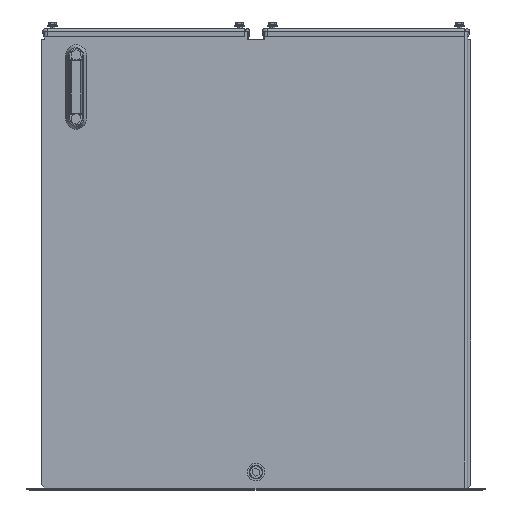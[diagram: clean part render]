
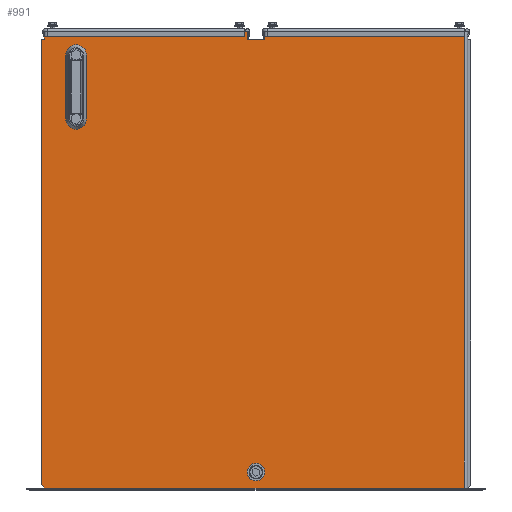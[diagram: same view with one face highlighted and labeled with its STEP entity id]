
A CAD part, top view. The second image highlights one B-rep face of the part: STEP entity #991.
In plain terms, the highlighted planar face has unit normal (0, 0, 1).
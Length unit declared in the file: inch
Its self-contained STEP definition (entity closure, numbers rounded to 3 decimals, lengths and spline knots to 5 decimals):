
#67 = EDGE_CURVE ( 'NONE', #7142, #2241, #16184, .T. ) ;
#200 = VERTEX_POINT ( 'NONE', #12825 ) ;
#227 = LINE ( 'NONE', #1063, #17797 ) ;
#235 = LINE ( 'NONE', #8303, #17291 ) ;
#292 = CIRCLE ( 'NONE', #4975, 0.26563 ) ;
#440 = VERTEX_POINT ( 'NONE', #16304 ) ;
#481 = ORIENTED_EDGE ( 'NONE', *, *, #12018, .F. ) ;
#487 = CARTESIAN_POINT ( 'NONE',  ( -7.64028, 45.10786, 37.27612 ) ) ;
#514 = CARTESIAN_POINT ( 'NONE',  ( 6.98472, 12.35786, 37.27612 ) ) ;
#672 = DIRECTION ( 'NONE',  ( 0., 0., 1. ) ) ;
#844 = CARTESIAN_POINT ( 'NONE',  ( 5.79722, 46.29536, 37.27612 ) ) ;
#991 = ADVANCED_FACE ( 'NONE', ( #19501, #11209, #2944, #15127 ), #2450, .F. ) ;
#1059 = VECTOR ( 'NONE', #21242, 39.37008 ) ;
#1063 = CARTESIAN_POINT ( 'NONE',  ( 5.79722, 46.98286, 37.27612 ) ) ;
#1687 = CIRCLE ( 'NONE', #5951, 0.26563 ) ;
#1741 = DIRECTION ( 'NONE',  ( 0., 1., 0. ) ) ;
#1837 = DIRECTION ( 'NONE',  ( 0., 0., 1. ) ) ;
#2117 = DIRECTION ( 'NONE',  ( -1., 0., 0. ) ) ;
#2138 = DIRECTION ( 'NONE',  ( 1., 0., 0. ) ) ;
#2241 = VERTEX_POINT ( 'NONE', #13365 ) ;
#2375 = AXIS2_PLACEMENT_3D ( 'NONE', #487, #12042, #2138 ) ;
#2423 = AXIS2_PLACEMENT_3D ( 'NONE', #3448, #15034, #5109 ) ;
#2450 = PLANE ( 'NONE',  #10685 ) ;
#2593 = ORIENTED_EDGE ( 'NONE', *, *, #12218, .F. ) ;
#2634 = CARTESIAN_POINT ( 'NONE',  ( -10.39028, 11.10786, 37.27612 ) ) ;
#2944 = FACE_BOUND ( 'NONE', #12358, .T. ) ;
#3085 = CARTESIAN_POINT ( 'NONE',  ( -10.39028, 46.35786, 37.27612 ) ) ;
#3448 = CARTESIAN_POINT ( 'NONE',  ( 6.48472, 12.35786, 37.27612 ) ) ;
#3461 = ORIENTED_EDGE ( 'NONE', *, *, #67, .F. ) ;
#3472 = ORIENTED_EDGE ( 'NONE', *, *, #4393, .F. ) ;
#3783 = CARTESIAN_POINT ( 'NONE',  ( -10.39028, 46.98286, 37.27612 ) ) ;
#3896 = CARTESIAN_POINT ( 'NONE',  ( 7.17222, 46.29536, 37.27612 ) ) ;
#3905 = CARTESIAN_POINT ( 'NONE',  ( -10.14028, 46.98286, 37.27612 ) ) ;
#4115 = VECTOR ( 'NONE', #7492, 39.37008 ) ;
#4349 = CIRCLE ( 'NONE', #21323, 0.5 ) ;
#4393 = EDGE_CURVE ( 'NONE', #12971, #6643, #19701, .T. ) ;
#4579 = CIRCLE ( 'NONE', #6328, 0.26563 ) ;
#4667 = DIRECTION ( 'NONE',  ( 1., 0., 0. ) ) ;
#4975 = AXIS2_PLACEMENT_3D ( 'NONE', #11733, #1837, #13423 ) ;
#5109 = DIRECTION ( 'NONE',  ( 1., 0., 0. ) ) ;
#5125 = DIRECTION ( 'NONE',  ( 0., 0., 1. ) ) ;
#5387 = VERTEX_POINT ( 'NONE', #17418 ) ;
#5571 = CARTESIAN_POINT ( 'NONE',  ( 22.82012, 46.98286, 37.27612 ) ) ;
#5762 = DIRECTION ( 'NONE',  ( 0., 0., -1. ) ) ;
#5895 = VERTEX_POINT ( 'NONE', #3896 ) ;
#5905 = VECTOR ( 'NONE', #5969, 39.37008 ) ;
#5951 = AXIS2_PLACEMENT_3D ( 'NONE', #10568, #672, #12244 ) ;
#5969 = DIRECTION ( 'NONE',  ( 1., 0., 0. ) ) ;
#5974 = EDGE_CURVE ( 'NONE', #200, #5895, #13438, .T. ) ;
#6088 = VERTEX_POINT ( 'NONE', #11014 ) ;
#6106 = VECTOR ( 'NONE', #2117, 39.37008 ) ;
#6328 = AXIS2_PLACEMENT_3D ( 'NONE', #19272, #9341, #20931 ) ;
#6643 = VERTEX_POINT ( 'NONE', #3905 ) ;
#6795 = EDGE_CURVE ( 'NONE', #14744, #17811, #11878, .T. ) ;
#7066 = EDGE_CURVE ( 'NONE', #9910, #10392, #13956, .T. ) ;
#7085 = CARTESIAN_POINT ( 'NONE',  ( -10.14028, 46.35786, 37.27612 ) ) ;
#7142 = VERTEX_POINT ( 'NONE', #17274 ) ;
#7150 = VERTEX_POINT ( 'NONE', #12438 ) ;
#7492 = DIRECTION ( 'NONE',  ( 1., 0., 0. ) ) ;
#8032 = EDGE_CURVE ( 'NONE', #6088, #20259, #21096, .T. ) ;
#8303 = CARTESIAN_POINT ( 'NONE',  ( 22.82012, 11.10786, 37.27612 ) ) ;
#8345 = ORIENTED_EDGE ( 'NONE', *, *, #8032, .T. ) ;
#8543 = ORIENTED_EDGE ( 'NONE', *, *, #7066, .T. ) ;
#9138 = ORIENTED_EDGE ( 'NONE', *, *, #20260, .T. ) ;
#9341 = DIRECTION ( 'NONE',  ( 0., 0., 1. ) ) ;
#9494 = ORIENTED_EDGE ( 'NONE', *, *, #9691, .T. ) ;
#9691 = EDGE_CURVE ( 'NONE', #20259, #14744, #11951, .T. ) ;
#9910 = VERTEX_POINT ( 'NONE', #5571 ) ;
#10392 = VERTEX_POINT ( 'NONE', #16945 ) ;
#10436 = ORIENTED_EDGE ( 'NONE', *, *, #17400, .F. ) ;
#10444 = ORIENTED_EDGE ( 'NONE', *, *, #14182, .F. ) ;
#10513 = LINE ( 'NONE', #3783, #6106 ) ;
#10568 = CARTESIAN_POINT ( 'NONE',  ( -7.64028, 40.10786, 37.27612 ) ) ;
#10685 = AXIS2_PLACEMENT_3D ( 'NONE', #18919, #5762, #17332 ) ;
#10803 = EDGE_LOOP ( 'NONE', ( #2593, #10444 ) ) ;
#10885 = VECTOR ( 'NONE', #18243, 39.37008 ) ;
#10942 = DIRECTION ( 'NONE',  ( 0., 1., 0. ) ) ;
#11014 = CARTESIAN_POINT ( 'NONE',  ( -10.39028, 46.35786, 37.27612 ) ) ;
#11024 = ORIENTED_EDGE ( 'NONE', *, *, #5974, .F. ) ;
#11209 = FACE_BOUND ( 'NONE', #12100, .T. ) ;
#11603 = CARTESIAN_POINT ( 'NONE',  ( -10.14028, 46.98286, 37.27612 ) ) ;
#11733 = CARTESIAN_POINT ( 'NONE',  ( -7.64028, 45.10786, 37.27612 ) ) ;
#11737 = EDGE_CURVE ( 'NONE', #19163, #200, #227, .T. ) ;
#11878 = LINE ( 'NONE', #14256, #5905 ) ;
#11881 = ORIENTED_EDGE ( 'NONE', *, *, #18954, .F. ) ;
#11951 = LINE ( 'NONE', #19609, #1059 ) ;
#12018 = EDGE_CURVE ( 'NONE', #15486, #440, #4349, .T. ) ;
#12042 = DIRECTION ( 'NONE',  ( 0., 0., 1. ) ) ;
#12100 = EDGE_LOOP ( 'NONE', ( #3461, #11881 ) ) ;
#12218 = EDGE_CURVE ( 'NONE', #7150, #5387, #4579, .T. ) ;
#12223 = CARTESIAN_POINT ( 'NONE',  ( -10.39028, 46.98286, 37.27612 ) ) ;
#12244 = DIRECTION ( 'NONE',  ( 1., 0., 0. ) ) ;
#12358 = EDGE_LOOP ( 'NONE', ( #481, #10436 ) ) ;
#12438 = CARTESIAN_POINT ( 'NONE',  ( -7.37465, 40.10786, 37.27612 ) ) ;
#12664 = DIRECTION ( 'NONE',  ( 0., -1., 0. ) ) ;
#12825 = CARTESIAN_POINT ( 'NONE',  ( 5.79722, 46.29536, 37.27612 ) ) ;
#12885 = LINE ( 'NONE', #3085, #17269 ) ;
#12971 = VERTEX_POINT ( 'NONE', #7085 ) ;
#13365 = CARTESIAN_POINT ( 'NONE',  ( -7.9059, 45.10786, 37.27612 ) ) ;
#13418 = VECTOR ( 'NONE', #20457, 39.37008 ) ;
#13423 = DIRECTION ( 'NONE',  ( 1., 0., 0. ) ) ;
#13438 = LINE ( 'NONE', #844, #4115 ) ;
#13589 = LINE ( 'NONE', #19185, #17435 ) ;
#13892 = ORIENTED_EDGE ( 'NONE', *, *, #14905, .T. ) ;
#13956 = LINE ( 'NONE', #12223, #13418 ) ;
#14093 = EDGE_LOOP ( 'NONE', ( #8345, #9494, #19617, #9138, #8543, #16488, #11024, #15339, #13892, #3472, #16034 ) ) ;
#14182 = EDGE_CURVE ( 'NONE', #5387, #7150, #1687, .T. ) ;
#14245 = DIRECTION ( 'NONE',  ( 0., -1., 0. ) ) ;
#14256 = CARTESIAN_POINT ( 'NONE',  ( -10.39028, 11.10786, 37.27612 ) ) ;
#14509 = CARTESIAN_POINT ( 'NONE',  ( 22.82012, 11.10786, 37.27612 ) ) ;
#14744 = VERTEX_POINT ( 'NONE', #14860 ) ;
#14860 = CARTESIAN_POINT ( 'NONE',  ( -10.14028, 11.10786, 37.27612 ) ) ;
#14905 = EDGE_CURVE ( 'NONE', #19163, #6643, #10513, .T. ) ;
#15034 = DIRECTION ( 'NONE',  ( 0., 0., 1. ) ) ;
#15045 = CARTESIAN_POINT ( 'NONE',  ( 6.48472, 12.35786, 37.27612 ) ) ;
#15127 = FACE_OUTER_BOUND ( 'NONE', #14093, .T. ) ;
#15339 = ORIENTED_EDGE ( 'NONE', *, *, #11737, .F. ) ;
#15486 = VERTEX_POINT ( 'NONE', #514 ) ;
#16034 = ORIENTED_EDGE ( 'NONE', *, *, #20722, .F. ) ;
#16066 = EDGE_CURVE ( 'NONE', #5895, #10392, #13589, .T. ) ;
#16184 = CIRCLE ( 'NONE', #2375, 0.26563 ) ;
#16304 = CARTESIAN_POINT ( 'NONE',  ( 5.98472, 12.35786, 37.27612 ) ) ;
#16337 = CIRCLE ( 'NONE', #2423, 0.5 ) ;
#16488 = ORIENTED_EDGE ( 'NONE', *, *, #16066, .F. ) ;
#16681 = DIRECTION ( 'NONE',  ( 1., 0., 0. ) ) ;
#16704 = VECTOR ( 'NONE', #14245, 39.37008 ) ;
#16945 = CARTESIAN_POINT ( 'NONE',  ( 7.17222, 46.98286, 37.27612 ) ) ;
#17269 = VECTOR ( 'NONE', #4667, 39.37008 ) ;
#17274 = CARTESIAN_POINT ( 'NONE',  ( -7.37465, 45.10786, 37.27612 ) ) ;
#17291 = VECTOR ( 'NONE', #1741, 39.37008 ) ;
#17332 = DIRECTION ( 'NONE',  ( -1., 0., 0. ) ) ;
#17400 = EDGE_CURVE ( 'NONE', #440, #15486, #16337, .T. ) ;
#17418 = CARTESIAN_POINT ( 'NONE',  ( -7.9059, 40.10786, 37.27612 ) ) ;
#17435 = VECTOR ( 'NONE', #10942, 39.37008 ) ;
#17797 = VECTOR ( 'NONE', #12664, 39.37008 ) ;
#17811 = VERTEX_POINT ( 'NONE', #14509 ) ;
#18212 = CARTESIAN_POINT ( 'NONE',  ( -10.39028, 11.35786, 37.27612 ) ) ;
#18243 = DIRECTION ( 'NONE',  ( 0., 1., 0. ) ) ;
#18919 = CARTESIAN_POINT ( 'NONE',  ( -10.39028, 11.10786, 37.27612 ) ) ;
#18954 = EDGE_CURVE ( 'NONE', #2241, #7142, #292, .T. ) ;
#19163 = VERTEX_POINT ( 'NONE', #20546 ) ;
#19185 = CARTESIAN_POINT ( 'NONE',  ( 7.17222, 46.98286, 37.27612 ) ) ;
#19272 = CARTESIAN_POINT ( 'NONE',  ( -7.64028, 40.10786, 37.27612 ) ) ;
#19501 = FACE_BOUND ( 'NONE', #10803, .T. ) ;
#19609 = CARTESIAN_POINT ( 'NONE',  ( -10.39028, 11.35786, 37.27612 ) ) ;
#19617 = ORIENTED_EDGE ( 'NONE', *, *, #6795, .T. ) ;
#19701 = LINE ( 'NONE', #11603, #10885 ) ;
#20259 = VERTEX_POINT ( 'NONE', #18212 ) ;
#20260 = EDGE_CURVE ( 'NONE', #17811, #9910, #235, .T. ) ;
#20457 = DIRECTION ( 'NONE',  ( -1., 0., 0. ) ) ;
#20546 = CARTESIAN_POINT ( 'NONE',  ( 5.79722, 46.98286, 37.27612 ) ) ;
#20722 = EDGE_CURVE ( 'NONE', #6088, #12971, #12885, .T. ) ;
#20931 = DIRECTION ( 'NONE',  ( 1., 0., 0. ) ) ;
#21096 = LINE ( 'NONE', #2634, #16704 ) ;
#21242 = DIRECTION ( 'NONE',  ( 0.707, -0.707, 0. ) ) ;
#21323 = AXIS2_PLACEMENT_3D ( 'NONE', #15045, #5125, #16681 ) ;
